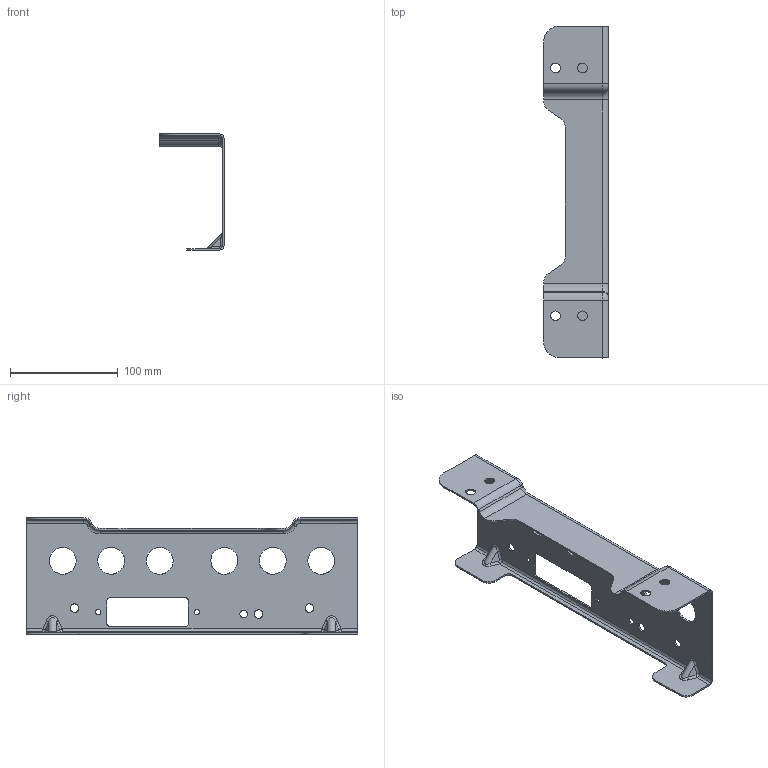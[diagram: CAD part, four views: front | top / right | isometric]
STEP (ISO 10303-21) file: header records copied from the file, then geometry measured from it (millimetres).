
FILE_DESCRIPTION(('CATIA V5 STEP Exchange'),'2;1');
FILE_NAME('E:\吉利商用车G3\10 2D\手动\钣金单件图纸\SHT0015286 标配后支撑钣金\SHT0015286.stp','2023-09-25T01:21:56+00:00',('none'),('none'),'CATIA Version 5 Release 20 GA (IN-10)','CATIA V5 STEP AP214','none');
FILE_SCHEMA(('AUTOMOTIVE_DESIGN { 1 0 10303 214 1 1 1 1 }'));
Length unit declared in the file: millimetre
Products named in the file (1): Part98
Bounding box: 60 x 308 x 108.2 mm (x, y, z)
Volume: 67869.6 mm3; surface area: 93446.3 mm2
Topology: 1 solids, 1 shells, 172 faces, 462 edges, 292 vertices
Faces by surface type: cylinder 110, plane 38, bspline 16, torus 8
Entity records: 7765 total; most frequent: CARTESIAN_POINT 3741, ORIENTED_EDGE 924, DIRECTION 627, EDGE_CURVE 462, VERTEX_POINT 292, AXIS2_PLACEMENT_3D 272, VECTOR 212, LINE 212
